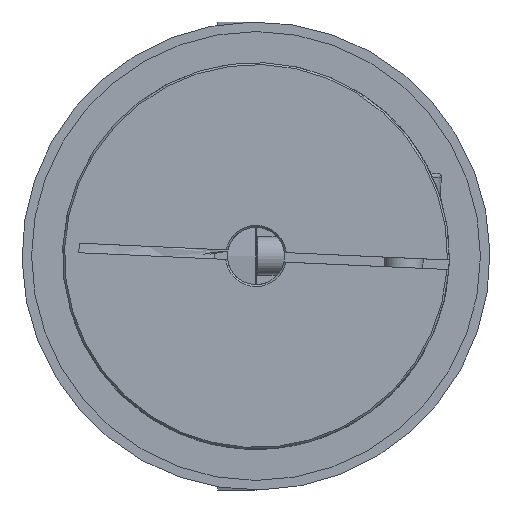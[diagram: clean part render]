
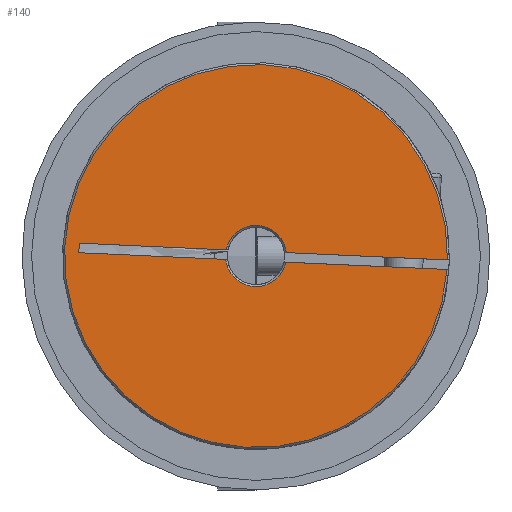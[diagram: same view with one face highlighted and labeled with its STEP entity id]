
A CAD part, left-side view. The second image highlights one B-rep face of the part: STEP entity #140.
In plain terms, the highlighted planar face has unit normal (-1, 0, 0).
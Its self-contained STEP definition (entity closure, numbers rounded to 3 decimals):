
#140 = ADVANCED_FACE( 'NONE', ( #238 ), #239, .F. );
#238 = FACE_OUTER_BOUND( '', #364, .T. );
#239 = PLANE( '', #365 );
#364 = EDGE_LOOP( '', ( #667, #668, #669, #670, #671, #672, #673, #674 ) );
#365 = AXIS2_PLACEMENT_3D( '', #675, #676, #677 );
#667 = ORIENTED_EDGE( '', *, *, #1333, .T. );
#668 = ORIENTED_EDGE( '', *, *, #1334, .T. );
#669 = ORIENTED_EDGE( '', *, *, #1335, .T. );
#670 = ORIENTED_EDGE( '', *, *, #1336, .T. );
#671 = ORIENTED_EDGE( '', *, *, #1337, .F. );
#672 = ORIENTED_EDGE( '', *, *, #1338, .T. );
#673 = ORIENTED_EDGE( '', *, *, #1323, .F. );
#674 = ORIENTED_EDGE( '', *, *, #1331, .T. );
#675 = CARTESIAN_POINT( '', ( 0., 3., 0. ) );
#676 = DIRECTION( '', ( 1., 0., 0. ) );
#677 = DIRECTION( '', ( 0., 1., 0. ) );
#1323 = EDGE_CURVE( 'NONE', #1900, #1901, #1902, .F. );
#1331 = EDGE_CURVE( 'NONE', #1900, #1912, #1914, .T. );
#1333 = EDGE_CURVE( 'NONE', #1912, #1916, #1917, .T. );
#1334 = EDGE_CURVE( 'NONE', #1916, #1918, #1919, .T. );
#1335 = EDGE_CURVE( 'NONE', #1918, #1920, #1921, .T. );
#1336 = EDGE_CURVE( 'NONE', #1920, #1922, #1923, .F. );
#1337 = EDGE_CURVE( 'NONE', #1924, #1922, #1925, .F. );
#1338 = EDGE_CURVE( 'NONE', #1924, #1901, #1926, .T. );
#1900 = VERTEX_POINT( 'NONE', #3062 );
#1901 = VERTEX_POINT( 'NONE', #3063 );
#1902 = LINE( '', #3064, #3065 );
#1912 = VERTEX_POINT( 'NONE', #3087 );
#1914 = LINE( '', #3089, #3090 );
#1916 = VERTEX_POINT( 'NONE', #3092 );
#1917 = LINE( '', #3093, #3094 );
#1918 = VERTEX_POINT( 'NONE', #3095 );
#1919 = CIRCLE( '', #3096, 3.2 );
#1920 = VERTEX_POINT( 'NONE', #3097 );
#1921 = LINE( '', #3098, #3099 );
#1922 = VERTEX_POINT( 'NONE', #3100 );
#1923 = CIRCLE( '', #3101, 20.05 );
#1924 = VERTEX_POINT( 'NONE', #3102 );
#1925 = LINE( '', #3103, #3104 );
#1926 = CIRCLE( '', #3105, 3.2 );
#3062 = CARTESIAN_POINT( '', ( 0., 18.545, -0.5 ) );
#3063 = CARTESIAN_POINT( '', ( 0., 3.161, -0.5 ) );
#3064 = CARTESIAN_POINT( '', ( 0., -3.5, -0.5 ) );
#3065 = VECTOR( '', #3587, 1000. );
#3087 = CARTESIAN_POINT( '', ( 0., 18.545, 0.5 ) );
#3089 = CARTESIAN_POINT( '', ( 0., 18.545, -0.5 ) );
#3090 = VECTOR( '', #3595, 1000. );
#3092 = CARTESIAN_POINT( '', ( 0., 3.161, 0.5 ) );
#3093 = CARTESIAN_POINT( '', ( 0., 3., 0.5 ) );
#3094 = VECTOR( '', #3596, 1000. );
#3095 = CARTESIAN_POINT( '', ( 0., -3.161, 0.5 ) );
#3096 = AXIS2_PLACEMENT_3D( '', #3597, #3598, #3599 );
#3097 = CARTESIAN_POINT( '', ( 0., -20.044, 0.5 ) );
#3098 = CARTESIAN_POINT( '', ( 0., 3., 0.5 ) );
#3099 = VECTOR( '', #3600, 1000. );
#3100 = CARTESIAN_POINT( '', ( 0., -20.044, -0.5 ) );
#3101 = AXIS2_PLACEMENT_3D( '', #3601, #3602, #3603 );
#3102 = CARTESIAN_POINT( '', ( 0., -3.161, -0.5 ) );
#3103 = CARTESIAN_POINT( '', ( 0., -3.5, -0.5 ) );
#3104 = VECTOR( '', #3604, 1000. );
#3105 = AXIS2_PLACEMENT_3D( '', #3605, #3606, #3607 );
#3587 = DIRECTION( '', ( 0., 1., 0. ) );
#3595 = DIRECTION( '', ( 0., 0., 1. ) );
#3596 = DIRECTION( '', ( 0., -1., 0. ) );
#3597 = CARTESIAN_POINT( '', ( 0., 0., 0. ) );
#3598 = DIRECTION( '', ( 1., 0., 0. ) );
#3599 = DIRECTION( '', ( 0., 0., -1. ) );
#3600 = DIRECTION( '', ( 0., -1., 0. ) );
#3601 = CARTESIAN_POINT( '', ( 0., 0., 0. ) );
#3602 = DIRECTION( '', ( 1., 0., 0. ) );
#3603 = DIRECTION( '', ( 0., 0., -1. ) );
#3604 = DIRECTION( '', ( 0., 1., 0. ) );
#3605 = CARTESIAN_POINT( '', ( 0., 0., 0. ) );
#3606 = DIRECTION( '', ( 1., 0., 0. ) );
#3607 = DIRECTION( '', ( 0., 0., -1. ) );
